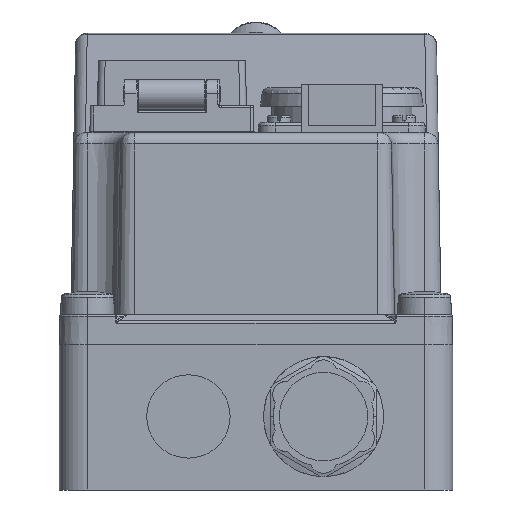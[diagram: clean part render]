
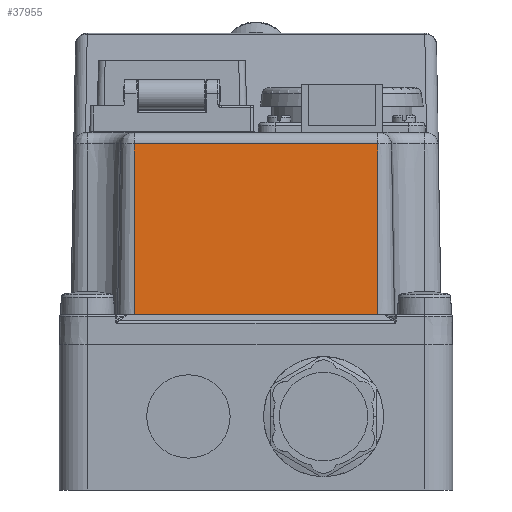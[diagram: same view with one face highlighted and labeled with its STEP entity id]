
A CAD part, left-side view. The second image highlights one B-rep face of the part: STEP entity #37955.
In plain terms, the highlighted planar face has unit normal (-1, 0, 0.018).
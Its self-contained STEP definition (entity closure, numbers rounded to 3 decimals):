
#2447=DIRECTION('',(0.,-1.,0.));
#2448=VECTOR('',#2447,73.);
#2449=CARTESIAN_POINT('',(-109.,36.5,52.5));
#2450=LINE('1247',#2449,#2448);
#4610=DIRECTION('',(-0.017,0.,-1.));
#4611=VECTOR('',#4610,51.219);
#4612=CARTESIAN_POINT('',(-108.106,-36.5,
103.711));
#4613=LINE('1286',#4612,#4611);
#4617=DIRECTION('',(-0.017,0.,-1.));
#4618=VECTOR('',#4617,51.219);
#4619=CARTESIAN_POINT('',(-108.106,36.5,103.711));
#4620=LINE('1285',#4619,#4618);
#4624=DIRECTION('',(0.,1.,0.));
#4625=VECTOR('',#4624,73.);
#4626=CARTESIAN_POINT('',(-108.106,-36.5,
103.711));
#4627=LINE('1262',#4626,#4625);
#28703=CARTESIAN_POINT('',(-109.,36.5,52.5));
#28704=VERTEX_POINT('',#28703);
#28705=CARTESIAN_POINT('',(-109.,-36.5,52.5));
#28706=VERTEX_POINT('',#28705);
#28731=CARTESIAN_POINT('',(-108.106,-36.5,103.711));
#28732=VERTEX_POINT('',#28731);
#28735=CARTESIAN_POINT('',(-108.106,36.5,
103.711));
#28736=VERTEX_POINT('',#28735);
#37942=CARTESIAN_POINT('',(-109.,-56.7,52.5));
#37943=DIRECTION('',(-1.,0.,0.017));
#37944=DIRECTION('',(0.,-1.,0.));
#37945=AXIS2_PLACEMENT_3D('',#37942,#37943,#37944);
#37946=PLANE('77',#37945);
#37948=ORIENTED_EDGE('1262',*,*,#37947,.F.);
#37949=ORIENTED_EDGE('1286',*,*,#37925,.T.);
#37950=ORIENTED_EDGE('1247',*,*,#35248,.F.);
#37952=ORIENTED_EDGE('1285',*,*,#37951,.F.);
#37953=EDGE_LOOP('77',(#37948,#37949,#37950,#37952));
#37954=FACE_OUTER_BOUND('77',#37953,.F.);
#35248=EDGE_CURVE('1247',#28704,#28706,#2450,.T.);
#37925=EDGE_CURVE('1286',#28732,#28706,#4613,.T.);
#37947=EDGE_CURVE('1262',#28732,#28736,#4627,.T.);
#37951=EDGE_CURVE('1285',#28736,#28704,#4620,.T.);
#37955=ADVANCED_FACE('77',(#37954),#37946,.T.);
